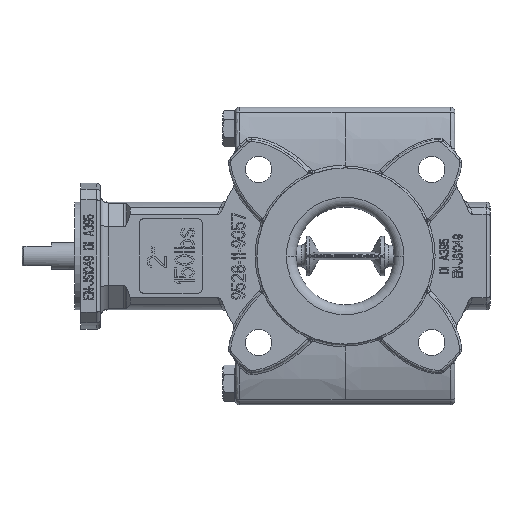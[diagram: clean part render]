
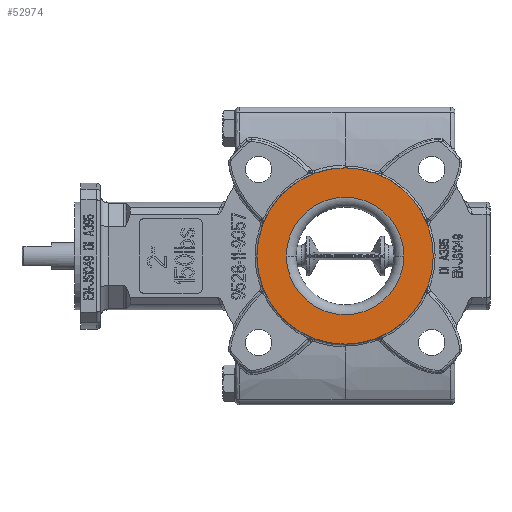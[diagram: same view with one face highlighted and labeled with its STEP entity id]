
A CAD part, left-side view. The second image highlights one B-rep face of the part: STEP entity #52974.
In plain terms, the highlighted planar face has unit normal (-1, 0, 0).
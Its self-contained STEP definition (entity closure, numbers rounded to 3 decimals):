
#3757=CARTESIAN_POINT('',(-21.5,0.,0.));
#3758=DIRECTION('',(1.,0.,0.));
#3759=DIRECTION('',(0.,-1.,0.));
#3760=AXIS2_PLACEMENT_3D('',#3757,#3758,#3759);
#3762=CARTESIAN_POINT('',(-21.5,0.,0.));
#3763=DIRECTION('',(1.,0.,0.));
#3764=DIRECTION('',(0.,1.,0.));
#3765=AXIS2_PLACEMENT_3D('',#3762,#3763,#3764);
#3767=CARTESIAN_POINT('',(-21.5,0.,0.));
#3768=DIRECTION('',(-1.,0.,0.));
#3769=DIRECTION('',(0.,-1.,0.));
#3770=AXIS2_PLACEMENT_3D('',#3767,#3768,#3769);
#3772=CARTESIAN_POINT('',(-21.5,0.,0.));
#3773=DIRECTION('',(-1.,0.,0.));
#3774=DIRECTION('',(0.,1.,0.));
#3775=AXIS2_PLACEMENT_3D('',#3772,#3773,#3774);
#38943=CARTESIAN_POINT('',(-21.5,-30.,0.));
#38944=VERTEX_POINT('',#38943);
#38945=CARTESIAN_POINT('',(-21.5,30.,0.));
#38946=VERTEX_POINT('',#38945);
#38947=CARTESIAN_POINT('',(-21.5,-45.,0.));
#38948=CARTESIAN_POINT('',(-21.5,45.,0.));
#38949=VERTEX_POINT('',#38947);
#38950=VERTEX_POINT('',#38948);
#52961=CARTESIAN_POINT('',(-21.5,0.,0.));
#52962=DIRECTION('',(1.,0.,0.));
#52963=DIRECTION('',(0.,-1.,0.));
#52964=AXIS2_PLACEMENT_3D('',#52961,#52962,#52963);
#52965=PLANE('',#52964);
#52966=ORIENTED_EDGE('',*,*,#50722,.T.);
#52967=ORIENTED_EDGE('',*,*,#50658,.T.);
#52968=EDGE_LOOP('',(#52966,#52967));
#52969=FACE_OUTER_BOUND('',#52968,.F.);
#52970=ORIENTED_EDGE('',*,*,#52941,.T.);
#52971=ORIENTED_EDGE('',*,*,#52955,.T.);
#52972=EDGE_LOOP('',(#52970,#52971));
#52973=FACE_BOUND('',#52972,.F.);
#52974=ADVANCED_FACE('',(#52969,#52973),#52965,.F.);
#3761=CIRCLE('',#3760,45.);
#3766=CIRCLE('',#3765,45.);
#3771=CIRCLE('',#3770,30.);
#3776=CIRCLE('',#3775,30.);
#50658=EDGE_CURVE('',#38950,#38949,#3766,.T.);
#50722=EDGE_CURVE('',#38949,#38950,#3761,.T.);
#52941=EDGE_CURVE('',#38944,#38946,#3771,.T.);
#52955=EDGE_CURVE('',#38946,#38944,#3776,.T.);
